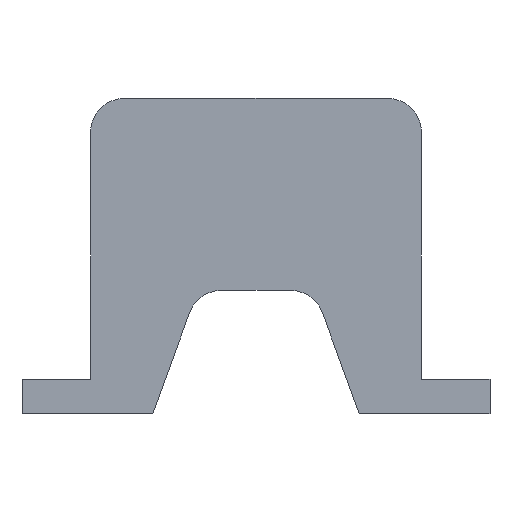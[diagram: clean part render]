
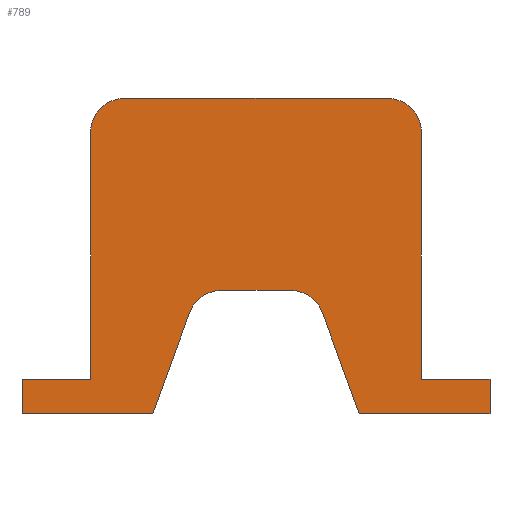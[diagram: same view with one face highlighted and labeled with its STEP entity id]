
A CAD part, left-side view. The second image highlights one B-rep face of the part: STEP entity #789.
In plain terms, the highlighted planar face has unit normal (-1, 0, 0).
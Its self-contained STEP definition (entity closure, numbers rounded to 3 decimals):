
#114=CARTESIAN_POINT('Line Origine',(0.,0.,-23.)) ;
#118=CARTESIAN_POINT('Vertex',(0.,0.,-5.)) ;
#120=CARTESIAN_POINT('Vertex',(0.,0.,-41.)) ;
#353=CARTESIAN_POINT('Vertex',(0.,48.3,-5.)) ;
#356=CARTESIAN_POINT('Axis2P3D Location',(0.,43.3,-5.)) ;
#360=CARTESIAN_POINT('Vertex',(0.,43.3,0.)) ;
#391=CARTESIAN_POINT('Vertex',(0.,48.3,-41.)) ;
#394=CARTESIAN_POINT('Line Origine',(0.,48.3,-23.)) ;
#411=CARTESIAN_POINT('Line Origine',(0.,53.3,-41.)) ;
#415=CARTESIAN_POINT('Vertex',(0.,58.3,-41.)) ;
#446=CARTESIAN_POINT('Line Origine',(0.,58.3,-43.5)) ;
#450=CARTESIAN_POINT('Vertex',(0.,58.3,-46.)) ;
#483=CARTESIAN_POINT('Vertex',(0.,39.201,-46.)) ;
#486=CARTESIAN_POINT('Line Origine',(0.,43.751,-46.)) ;
#490=CARTESIAN_POINT('Vertex',(0.,48.3,-46.)) ;
#493=CARTESIAN_POINT('Line Origine',(0.,53.3,-46.)) ;
#528=CARTESIAN_POINT('Line Origine',(0.,24.15,0.)) ;
#532=CARTESIAN_POINT('Vertex',(0.,5.,0.)) ;
#564=CARTESIAN_POINT('Axis2P3D Location',(0.,5.,-5.)) ;
#581=CARTESIAN_POINT('Line Origine',(0.,-10.,-43.5)) ;
#585=CARTESIAN_POINT('Vertex',(0.,-10.,-41.)) ;
#587=CARTESIAN_POINT('Vertex',(0.,-10.,-46.)) ;
#622=CARTESIAN_POINT('Vertex',(0.,9.099,-46.)) ;
#637=CARTESIAN_POINT('Line Origine',(0.,-5.,-46.)) ;
#641=CARTESIAN_POINT('Vertex',(0.,0.,-46.)) ;
#644=CARTESIAN_POINT('Line Origine',(0.,4.549,-46.)) ;
#662=CARTESIAN_POINT('Line Origine',(0.,-5.,-41.)) ;
#688=CARTESIAN_POINT('Line Origine',(0.,35.926,-37.)) ;
#692=CARTESIAN_POINT('Vertex',(0.,33.847,-31.29)) ;
#723=CARTESIAN_POINT('Vertex',(0.,29.149,-28.)) ;
#728=CARTESIAN_POINT('Axis2P3D Location',(0.,29.149,-33.)) ;
#745=CARTESIAN_POINT('Axis2P3D Location',(0.,0.,0.)) ;
#750=CARTESIAN_POINT('Line Origine',(0.,11.776,-38.645)) ;
#754=CARTESIAN_POINT('Vertex',(0.,14.453,-31.29)) ;
#757=CARTESIAN_POINT('Line Origine',(0.,24.15,-28.)) ;
#761=CARTESIAN_POINT('Vertex',(0.,19.151,-28.)) ;
#764=CARTESIAN_POINT('Axis2P3D Location',(0.,19.151,-33.)) ;
#115=DIRECTION('Vector Direction',(0.,0.,-1.)) ;
#357=DIRECTION('Axis2P3D Direction',(1.,0.,-0.)) ;
#395=DIRECTION('Vector Direction',(0.,0.,1.)) ;
#412=DIRECTION('Vector Direction',(0.,-1.,0.)) ;
#447=DIRECTION('Vector Direction',(0.,0.,1.)) ;
#487=DIRECTION('Vector Direction',(0.,-1.,0.)) ;
#494=DIRECTION('Vector Direction',(0.,1.,0.)) ;
#529=DIRECTION('Vector Direction',(0.,1.,0.)) ;
#565=DIRECTION('Axis2P3D Direction',(1.,0.,0.)) ;
#582=DIRECTION('Vector Direction',(0.,0.,1.)) ;
#638=DIRECTION('Vector Direction',(0.,1.,0.)) ;
#645=DIRECTION('Vector Direction',(0.,-1.,0.)) ;
#663=DIRECTION('Vector Direction',(0.,-1.,0.)) ;
#689=DIRECTION('Vector Direction',(0.,0.342,-0.94)) ;
#729=DIRECTION('Axis2P3D Direction',(-1.,0.,0.)) ;
#746=DIRECTION('Axis2P3D Direction',(1.,0.,0.)) ;
#747=DIRECTION('Axis2P3D XDirection',(0.,1.,0.)) ;
#751=DIRECTION('Vector Direction',(0.,0.342,0.94)) ;
#758=DIRECTION('Vector Direction',(0.,1.,0.)) ;
#765=DIRECTION('Axis2P3D Direction',(1.,0.,0.)) ;
#358=AXIS2_PLACEMENT_3D('Circle Axis2P3D',#356,#357,$) ;
#566=AXIS2_PLACEMENT_3D('Circle Axis2P3D',#564,#565,$) ;
#730=AXIS2_PLACEMENT_3D('Circle Axis2P3D',#728,#729,$) ;
#748=AXIS2_PLACEMENT_3D('Plane Axis2P3D',#745,#746,#747) ;
#766=AXIS2_PLACEMENT_3D('Circle Axis2P3D',#764,#765,$) ;
#770=ORIENTED_EDGE('',*,*,#756,.F.) ;
#771=ORIENTED_EDGE('',*,*,#648,.F.) ;
#772=ORIENTED_EDGE('',*,*,#643,.F.) ;
#773=ORIENTED_EDGE('',*,*,#589,.F.) ;
#774=ORIENTED_EDGE('',*,*,#666,.F.) ;
#775=ORIENTED_EDGE('',*,*,#122,.F.) ;
#776=ORIENTED_EDGE('',*,*,#568,.F.) ;
#777=ORIENTED_EDGE('',*,*,#534,.F.) ;
#778=ORIENTED_EDGE('',*,*,#362,.F.) ;
#779=ORIENTED_EDGE('',*,*,#398,.F.) ;
#780=ORIENTED_EDGE('',*,*,#417,.F.) ;
#781=ORIENTED_EDGE('',*,*,#452,.F.) ;
#782=ORIENTED_EDGE('',*,*,#497,.F.) ;
#783=ORIENTED_EDGE('',*,*,#492,.F.) ;
#784=ORIENTED_EDGE('',*,*,#694,.F.) ;
#785=ORIENTED_EDGE('',*,*,#732,.T.) ;
#786=ORIENTED_EDGE('',*,*,#763,.F.) ;
#787=ORIENTED_EDGE('',*,*,#768,.T.) ;
#116=VECTOR('Line Direction',#115,1.) ;
#396=VECTOR('Line Direction',#395,1.) ;
#413=VECTOR('Line Direction',#412,1.) ;
#448=VECTOR('Line Direction',#447,1.) ;
#488=VECTOR('Line Direction',#487,1.) ;
#495=VECTOR('Line Direction',#494,1.) ;
#530=VECTOR('Line Direction',#529,1.) ;
#583=VECTOR('Line Direction',#582,1.) ;
#639=VECTOR('Line Direction',#638,1.) ;
#646=VECTOR('Line Direction',#645,1.) ;
#664=VECTOR('Line Direction',#663,1.) ;
#690=VECTOR('Line Direction',#689,1.) ;
#752=VECTOR('Line Direction',#751,1.) ;
#759=VECTOR('Line Direction',#758,1.) ;
#789=ADVANCED_FACE('Hauptk\X2\00F6\X0\rper',(#788),#749,.F.) ;
#359=CIRCLE('generated circle',#358,5.) ;
#567=CIRCLE('generated circle',#566,5.) ;
#731=CIRCLE('generated circle',#730,5.) ;
#767=CIRCLE('generated circle',#766,5.) ;
#122=EDGE_CURVE('',#119,#121,#117,.T.) ;
#362=EDGE_CURVE('',#354,#361,#359,.T.) ;
#398=EDGE_CURVE('',#392,#354,#397,.T.) ;
#417=EDGE_CURVE('',#416,#392,#414,.T.) ;
#452=EDGE_CURVE('',#451,#416,#449,.T.) ;
#492=EDGE_CURVE('',#484,#491,#489,.F.) ;
#497=EDGE_CURVE('',#491,#451,#496,.T.) ;
#534=EDGE_CURVE('',#361,#533,#531,.F.) ;
#568=EDGE_CURVE('',#533,#119,#567,.T.) ;
#589=EDGE_CURVE('',#586,#588,#584,.F.) ;
#643=EDGE_CURVE('',#588,#642,#640,.T.) ;
#648=EDGE_CURVE('',#642,#623,#647,.F.) ;
#666=EDGE_CURVE('',#121,#586,#665,.T.) ;
#694=EDGE_CURVE('',#693,#484,#691,.T.) ;
#732=EDGE_CURVE('',#693,#724,#731,.F.) ;
#756=EDGE_CURVE('',#623,#755,#753,.T.) ;
#763=EDGE_CURVE('',#762,#724,#760,.T.) ;
#768=EDGE_CURVE('',#762,#755,#767,.T.) ;
#769=EDGE_LOOP('',(#770,#771,#772,#773,#774,#775,#776,#777,#778,#779,#780,#781,#782,#783,#784,#785,#786,#787)) ;
#788=FACE_OUTER_BOUND('',#769,.T.) ;
#117=LINE('Line',#114,#116) ;
#397=LINE('Line',#394,#396) ;
#414=LINE('Line',#411,#413) ;
#449=LINE('Line',#446,#448) ;
#489=LINE('Line',#486,#488) ;
#496=LINE('Line',#493,#495) ;
#531=LINE('Line',#528,#530) ;
#584=LINE('Line',#581,#583) ;
#640=LINE('Line',#637,#639) ;
#647=LINE('Line',#644,#646) ;
#665=LINE('Line',#662,#664) ;
#691=LINE('Line',#688,#690) ;
#753=LINE('Line',#750,#752) ;
#760=LINE('Line',#757,#759) ;
#749=PLANE('',#748) ;
#119=VERTEX_POINT('',#118) ;
#121=VERTEX_POINT('',#120) ;
#354=VERTEX_POINT('',#353) ;
#361=VERTEX_POINT('',#360) ;
#392=VERTEX_POINT('',#391) ;
#416=VERTEX_POINT('',#415) ;
#451=VERTEX_POINT('',#450) ;
#484=VERTEX_POINT('',#483) ;
#491=VERTEX_POINT('',#490) ;
#533=VERTEX_POINT('',#532) ;
#586=VERTEX_POINT('',#585) ;
#588=VERTEX_POINT('',#587) ;
#623=VERTEX_POINT('',#622) ;
#642=VERTEX_POINT('',#641) ;
#693=VERTEX_POINT('',#692) ;
#724=VERTEX_POINT('',#723) ;
#755=VERTEX_POINT('',#754) ;
#762=VERTEX_POINT('',#761) ;
